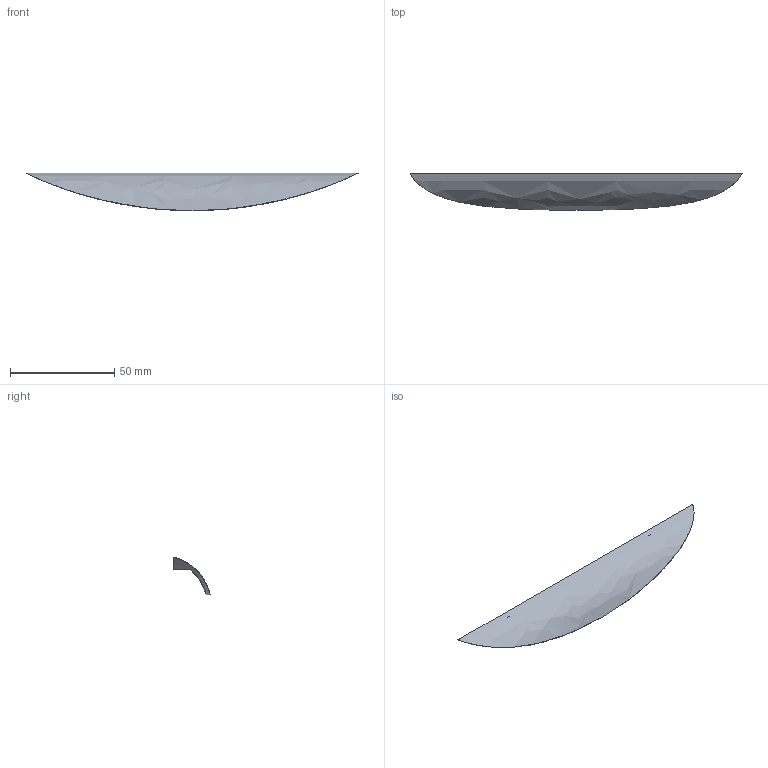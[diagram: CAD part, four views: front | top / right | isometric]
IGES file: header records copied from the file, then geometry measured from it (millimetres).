
Start section: Data from Parasolid IGES Translator 15.0.47, Copyright(c) 2006 Siemens P LM Software. All Rights Reserved.
Global section: file name: 9070123.igs; native system:  By UGS Corp.; preprocessor: XPlus GENERIC/IGES 3.0; author: Noname; organization: Noname; date: 20140122.144840; units: millimetre
Bounding box: 159 x 17.43 x 18 mm (x, y, z)
Surface area: 6868.9 mm2 (no closed solid volume)
Topology: 0 solids, 0 shells, 10 faces, 36 edges, 34 vertices
Faces by surface type: revolution 6, extrusion 4
